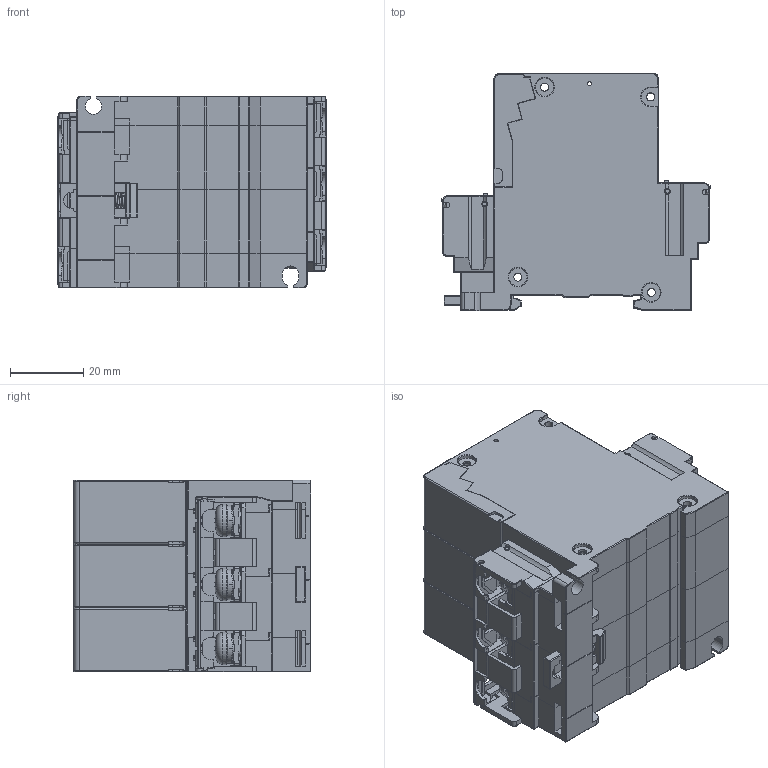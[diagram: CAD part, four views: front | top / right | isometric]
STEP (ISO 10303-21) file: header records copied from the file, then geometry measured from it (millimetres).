
FILE_DESCRIPTION (( 'STEP AP203' ), '1' );
FILE_NAME ('Total Ass''y(3P).STEP', '2018-06-27T00:41:29', ( '' ), ( '' ), 'SwSTEP 2.0', 'SolidWorks 2015', '' );
FILE_SCHEMA (( 'CONFIG_CONTROL_DESIGN' ));
Length unit declared in the file: millimetre
Products named in the file (21): Wave Washer(M5); Load Terminal(CP30DN5005); Aux Handle(3P)(CP30DN6009); Din Rail(CP30DN6006); Square Nut(M5)(CP30DN 7302); Line Terminal(CP30DN5004); Din Rail Spring(CP30DN8001); Handle(CP30DN6004); Pin(CP30DN7001); Cover(CP30DN6002); Self Up Screw(M5)(CP30DN 7305); Fixed Contact Tip(CP30DN7202)_晦獄 撲薑; Din Rail Ass''y(CP30DN 4005); Line Terminal Ass''y(CP30DN4001); 餌陝 Washer(M5); PH Swrew(M5X10); Total Ass''y(3P); C-Base(CP30DN 6003); Base(CP30DN6001); Dust Cover(CP30DN6014); Terminal Cover(3P)(CP30DN 6012)
Assembly tree (41 placements, depth 3):
  Total Ass''y(3P)
    Base(CP30DN6001)
    Cover(CP30DN6002)
    Square Nut(M5)(CP30DN 7302)  x6
    Handle(CP30DN6004)  x3
    Line Terminal Ass''y(CP30DN4001)  x3
      Line Terminal(CP30DN5004)
      Fixed Contact Tip(CP30DN7202)_晦獄 撲薑
    Load Terminal(CP30DN5005)  x3
    Self Up Screw(M5)(CP30DN 7305)  x6
      PH Swrew(M5X10)
      餌陝 Washer(M5)
      Wave Washer(M5)
    Dust Cover(CP30DN6014)  x3
    C-Base(CP30DN 6003)  x2
    Pin(CP30DN7001)  x2
    Terminal Cover(3P)(CP30DN 6012)  x2
    Aux Handle(3P)(CP30DN6009)
    Din Rail Ass''y(CP30DN 4005)
      Din Rail(CP30DN6006)
      Din Rail Spring(CP30DN8001)
Bounding box: 73.4 x 65.05 x 52.5 mm (x, y, z)
Volume: 62288.9 mm3; surface area: 94942.3 mm2
Topology: 50 solids, 52 shells, 6189 faces, 17031 edges, 10877 vertices
Faces by surface type: plane 4013, cylinder 1551, torus 231, sphere 161, cone 135, bspline 98
Entity records: 115191 total; most frequent: CARTESIAN_POINT 25312, ORIENTED_EDGE 18658, DIRECTION 17724, EDGE_CURVE 9329, LINE 6966, VECTOR 6966, VERTEX_POINT 5957, AXIS2_PLACEMENT_3D 5379
